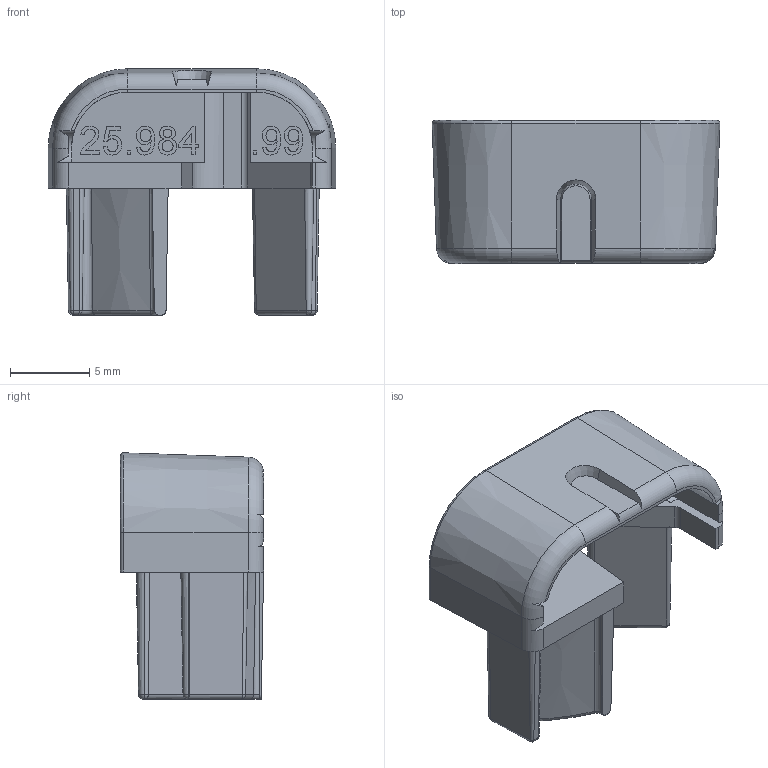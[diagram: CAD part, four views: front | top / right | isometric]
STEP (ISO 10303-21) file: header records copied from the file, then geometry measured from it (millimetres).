
FILE_DESCRIPTION (( 'STEP AP203' ), '1' );
FILE_NAME ('Endkappen_ChannelLine_S_L_24.STEP', '2024-11-29T07:54:26', ( '' ), ( '' ), 'SwSTEP 2.0', 'SolidWorks 2023', '' );
FILE_SCHEMA (( 'CONFIG_CONTROL_DESIGN' ));
Length unit declared in the file: millimetre
Products named in the file (1): Endkappen_ChannelLine_S_L_24
Bounding box: 18.1 x 9 x 15.5 mm (x, y, z)
Volume: 651.4 mm3; surface area: 1151 mm2
Topology: 1 solids, 1 shells, 243 faces, 636 edges, 406 vertices
Faces by surface type: plane 102, bspline 77, cylinder 25, cone 22, torus 17
Entity records: 13142 total; most frequent: CARTESIAN_POINT 7625, ORIENTED_EDGE 1264, DIRECTION 894, EDGE_CURVE 632, VERTEX_POINT 406, VECTOR 344, LINE 344, AXIS2_PLACEMENT_3D 275
